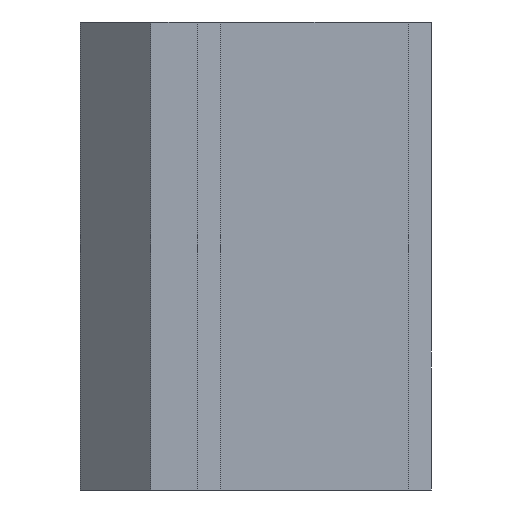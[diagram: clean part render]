
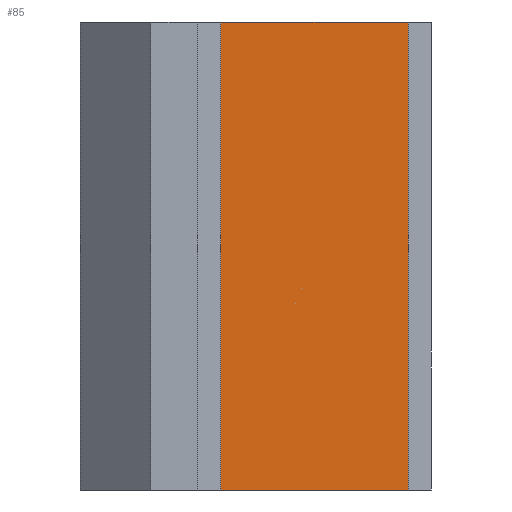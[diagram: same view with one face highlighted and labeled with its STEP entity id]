
A CAD part, left-side view. The second image highlights one B-rep face of the part: STEP entity #85.
In plain terms, the highlighted planar face has unit normal (-1, 0, 0).
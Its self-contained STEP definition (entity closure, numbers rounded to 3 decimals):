
#85 = ADVANCED_FACE( '', ( #178 ), #179, .F. );
#178 = FACE_OUTER_BOUND( '', #271, .T. );
#179 = PLANE( '', #272 );
#271 = EDGE_LOOP( '', ( #461, #462, #463, #464 ) );
#272 = AXIS2_PLACEMENT_3D( '', #465, #466, #467 );
#461 = ORIENTED_EDGE( '', *, *, #573, .F. );
#462 = ORIENTED_EDGE( '', *, *, #598, .T. );
#463 = ORIENTED_EDGE( '', *, *, #538, .T. );
#464 = ORIENTED_EDGE( '', *, *, #599, .F. );
#465 = CARTESIAN_POINT( '', ( 20., 0., -107.475 ) );
#466 = DIRECTION( '', ( 1., 0., 0. ) );
#467 = DIRECTION( '', ( 0., 0., -1. ) );
#538 = EDGE_CURVE( '', #641, #639, #642, .T. );
#573 = EDGE_CURVE( '', #696, #677, #698, .T. );
#598 = EDGE_CURVE( '', #696, #641, #729, .T. );
#599 = EDGE_CURVE( '', #677, #639, #730, .T. );
#639 = VERTEX_POINT( '', #784 );
#641 = VERTEX_POINT( '', #787 );
#642 = LINE( '', #788, #789 );
#677 = VERTEX_POINT( '', #840 );
#696 = VERTEX_POINT( '', #870 );
#698 = LINE( '', #873, #874 );
#729 = LINE( '', #912, #913 );
#730 = LINE( '', #914, #915 );
#784 = CARTESIAN_POINT( '', ( 20., 9., 20. ) );
#787 = CARTESIAN_POINT( '', ( 20., 1., 20. ) );
#788 = CARTESIAN_POINT( '', ( 20., 0., 20. ) );
#789 = VECTOR( '', #937, 1000. );
#840 = CARTESIAN_POINT( '', ( 20., 9., 0. ) );
#870 = CARTESIAN_POINT( '', ( 20., 1., 0. ) );
#873 = CARTESIAN_POINT( '', ( 20., 0., 0. ) );
#874 = VECTOR( '', #972, 1000. );
#912 = CARTESIAN_POINT( '', ( 20., 1., -107.475 ) );
#913 = VECTOR( '', #998, 1000. );
#914 = CARTESIAN_POINT( '', ( 20., 9., -107.475 ) );
#915 = VECTOR( '', #999, 1000. );
#937 = DIRECTION( '', ( 0., 1., 0. ) );
#972 = DIRECTION( '', ( 0., 1., 0. ) );
#998 = DIRECTION( '', ( 0., 0., 1. ) );
#999 = DIRECTION( '', ( 0., 0., 1. ) );
